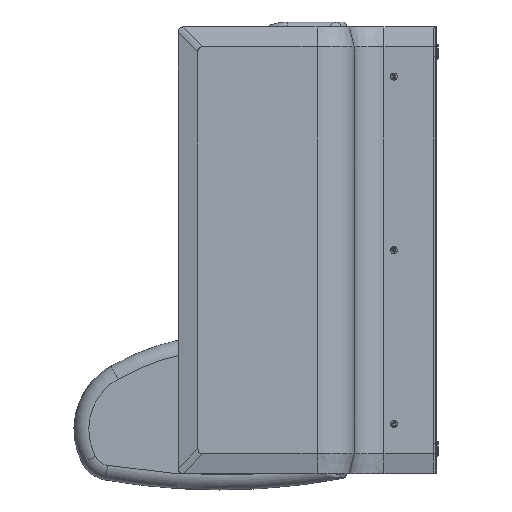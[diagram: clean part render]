
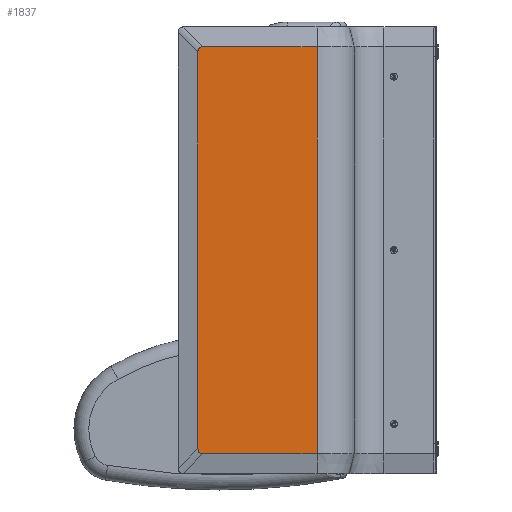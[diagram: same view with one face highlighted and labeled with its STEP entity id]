
A CAD part, left-side view. The second image highlights one B-rep face of the part: STEP entity #1837.
In plain terms, the highlighted planar face has unit normal (-1, 0, 0).
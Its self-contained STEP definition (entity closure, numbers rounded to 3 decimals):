
#56 = CARTESIAN_POINT ( 'NONE',  ( -162.5, 475., -399.935 ) ) ;
#71 = DIRECTION ( 'NONE',  ( 0., -1., 0. ) ) ;
#100 = VERTEX_POINT ( 'NONE', #1903 ) ;
#111 = DIRECTION ( 'NONE',  ( 0., 0., -1. ) ) ;
#141 = LINE ( 'NONE', #10368, #1986 ) ;
#170 = CARTESIAN_POINT ( 'NONE',  ( -162.5, 475., 399.935 ) ) ;
#174 = CARTESIAN_POINT ( 'NONE',  ( -162.5, 235., 450. ) ) ;
#207 = VERTEX_POINT ( 'NONE', #10562 ) ;
#787 = ORIENTED_EDGE ( 'NONE', *, *, #9800, .F. ) ;
#1026 = CARTESIAN_POINT ( 'NONE',  ( -162.5, 471.611, -410. ) ) ;
#1393 = LINE ( 'NONE', #7752, #8318 ) ;
#1410 = CARTESIAN_POINT ( 'NONE',  ( -162.5, 475., 406.611 ) ) ;
#1413 = VERTEX_POINT ( 'NONE', #6702 ) ;
#1837 = ADVANCED_FACE ( 'NONE', ( #8879 ), #3238, .F. ) ;
#1903 = CARTESIAN_POINT ( 'NONE',  ( -162.5, 475., -399.935 ) ) ;
#1986 = VECTOR ( 'NONE', #71, 1000. ) ;
#2207 = EDGE_CURVE ( 'NONE', #10591, #100, #1393, .T. ) ;
#2604 = VECTOR ( 'NONE', #6426, 1000. ) ;
#2917 = AXIS2_PLACEMENT_3D ( 'NONE', #4273, #4033, #8809 ) ;
#3238 = PLANE ( 'NONE',  #2917 ) ;
#3240 = CARTESIAN_POINT ( 'NONE',  ( -162.5, 475., 399.935 ) ) ;
#4033 = DIRECTION ( 'NONE',  ( 1., 0., 0. ) ) ;
#4191 = CARTESIAN_POINT ( 'NONE',  ( -162.5, 235., 410. ) ) ;
#4216 = CARTESIAN_POINT ( 'NONE',  ( -162.5, 471.611, 410. ) ) ;
#4273 = CARTESIAN_POINT ( 'NONE',  ( -162.5, 515., -450. ) ) ;
#4283 = ORIENTED_EDGE ( 'NONE', *, *, #7081, .T. ) ;
#4538 = ORIENTED_EDGE ( 'NONE', *, *, #10137, .T. ) ;
#4725 = LINE ( 'NONE', #174, #11911 ) ;
#4798 = CARTESIAN_POINT ( 'NONE',  ( -162.5, 464.935, -410. ) ) ;
#5701 =( BOUNDED_CURVE ( )  B_SPLINE_CURVE ( 3, ( #56, #9280, #1026, #4798 ),
 .UNSPECIFIED., .F., .T. ) 
 B_SPLINE_CURVE_WITH_KNOTS ( ( 4, 4 ),
 ( 2.969, 3.314 ),
 .UNSPECIFIED. ) 
 CURVE ( )  GEOMETRIC_REPRESENTATION_ITEM ( )  RATIONAL_B_SPLINE_CURVE ( ( 1., 0.99, 0.99, 1. ) ) 
 REPRESENTATION_ITEM ( '' )  );
#5960 = ORIENTED_EDGE ( 'NONE', *, *, #6188, .T. ) ;
#6188 = EDGE_CURVE ( 'NONE', #9505, #6388, #10817, .T. ) ;
#6388 = VERTEX_POINT ( 'NONE', #11626 ) ;
#6426 = DIRECTION ( 'NONE',  ( 0., 1., 0. ) ) ;
#6478 = ORIENTED_EDGE ( 'NONE', *, *, #2207, .T. ) ;
#6702 = CARTESIAN_POINT ( 'NONE',  ( -162.5, 235., -410. ) ) ;
#7052 = CARTESIAN_POINT ( 'NONE',  ( -162.5, 515., 410. ) ) ;
#7081 = EDGE_CURVE ( 'NONE', #207, #1413, #141, .T. ) ;
#7536 = EDGE_CURVE ( 'NONE', #100, #207, #5701, .T. ) ;
#7752 = CARTESIAN_POINT ( 'NONE',  ( -162.5, 475., -410. ) ) ;
#7897 = CARTESIAN_POINT ( 'NONE',  ( -162.5, 464.935, 410. ) ) ;
#8318 = VECTOR ( 'NONE', #8673, 1000. ) ;
#8673 = DIRECTION ( 'NONE',  ( 0., 0., -1. ) ) ;
#8809 = DIRECTION ( 'NONE',  ( 0., 0., -1. ) ) ;
#8879 = FACE_OUTER_BOUND ( 'NONE', #9460, .T. ) ;
#9280 = CARTESIAN_POINT ( 'NONE',  ( -162.5, 475., -406.611 ) ) ;
#9460 = EDGE_LOOP ( 'NONE', ( #5960, #4538, #6478, #11444, #4283, #787 ) ) ;
#9505 = VERTEX_POINT ( 'NONE', #4191 ) ;
#9800 = EDGE_CURVE ( 'NONE', #9505, #1413, #4725, .T. ) ;
#10137 = EDGE_CURVE ( 'NONE', #6388, #10591, #11828, .T. ) ;
#10368 = CARTESIAN_POINT ( 'NONE',  ( -162.5, 515., -410. ) ) ;
#10562 = CARTESIAN_POINT ( 'NONE',  ( -162.5, 464.935, -410. ) ) ;
#10591 = VERTEX_POINT ( 'NONE', #170 ) ;
#10817 = LINE ( 'NONE', #7052, #2604 ) ;
#11444 = ORIENTED_EDGE ( 'NONE', *, *, #7536, .T. ) ;
#11626 = CARTESIAN_POINT ( 'NONE',  ( -162.5, 464.935, 410. ) ) ;
#11828 =( BOUNDED_CURVE ( )  B_SPLINE_CURVE ( 3, ( #7897, #4216, #1410, #3240 ),
 .UNSPECIFIED., .F., .T. ) 
 B_SPLINE_CURVE_WITH_KNOTS ( ( 4, 4 ),
 ( 2.969, 3.314 ),
 .UNSPECIFIED. ) 
 CURVE ( )  GEOMETRIC_REPRESENTATION_ITEM ( )  RATIONAL_B_SPLINE_CURVE ( ( 1., 0.99, 0.99, 1. ) ) 
 REPRESENTATION_ITEM ( '' )  );
#11911 = VECTOR ( 'NONE', #111, 1000. ) ;
